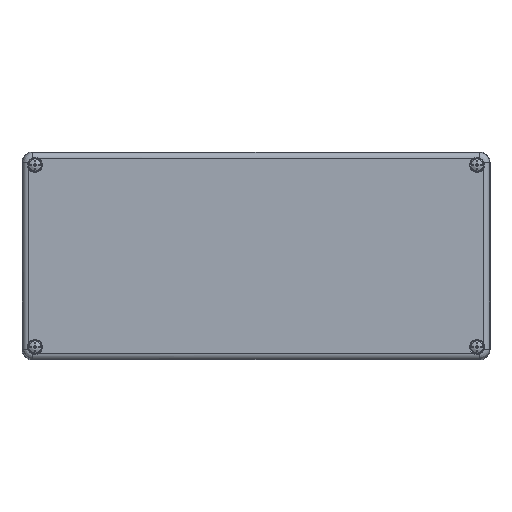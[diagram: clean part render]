
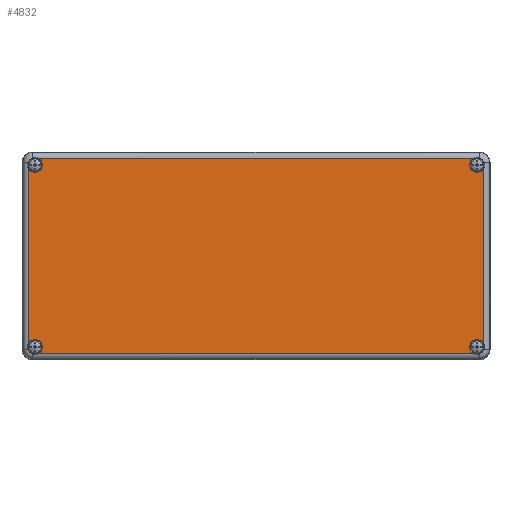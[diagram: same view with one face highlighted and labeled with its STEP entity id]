
A CAD part, top view. The second image highlights one B-rep face of the part: STEP entity #4832.
In plain terms, the highlighted planar face has unit normal (0, 0, 1).
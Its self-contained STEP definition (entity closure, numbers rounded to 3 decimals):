
#597=CIRCLE('',#16826,5.662);
#598=CIRCLE('',#16827,5.662);
#599=CIRCLE('',#16828,5.662);
#600=CIRCLE('',#16829,5.662);
#1096=PLANE('',#16830);
#2602=LINE('',#41661,#3910);
#2615=LINE('',#41684,#3923);
#2640=LINE('',#41728,#3948);
#2641=LINE('',#41734,#3949);
#3910=VECTOR('',#19851,1.);
#3923=VECTOR('',#19884,1.);
#3948=VECTOR('',#19947,1.);
#3949=VECTOR('',#19958,1.);
#4832=ADVANCED_FACE('',(#5925),#1096,.T.);
#5925=FACE_OUTER_BOUND('',#6928,.T.);
#6928=EDGE_LOOP('',(#11156,#11157,#11158,#11159,#11160,#11161,#11162,#11163));
#11156=ORIENTED_EDGE('',*,*,#15122,.T.);
#11157=ORIENTED_EDGE('',*,*,#15083,.T.);
#11158=ORIENTED_EDGE('',*,*,#15123,.F.);
#11159=ORIENTED_EDGE('',*,*,#15096,.F.);
#11160=ORIENTED_EDGE('',*,*,#15124,.T.);
#11161=ORIENTED_EDGE('',*,*,#15121,.F.);
#11162=ORIENTED_EDGE('',*,*,#15125,.F.);
#11163=ORIENTED_EDGE('',*,*,#15126,.T.);
#12671=VERTEX_POINT('',#34529);
#12673=VERTEX_POINT('',#34633);
#12752=VERTEX_POINT('',#36656);
#12756=VERTEX_POINT('',#36782);
#12828=VERTEX_POINT('',#38759);
#12832=VERTEX_POINT('',#38885);
#12907=VERTEX_POINT('',#40850);
#12909=VERTEX_POINT('',#40954);
#15083=EDGE_CURVE('',#12832,#12909,#2602,.T.);
#15096=EDGE_CURVE('',#12752,#12907,#2615,.T.);
#15121=EDGE_CURVE('',#12673,#12756,#2640,.T.);
#15122=EDGE_CURVE('',#12828,#12832,#597,.T.);
#15123=EDGE_CURVE('',#12907,#12909,#598,.T.);
#15124=EDGE_CURVE('',#12752,#12756,#599,.T.);
#15125=EDGE_CURVE('',#12671,#12673,#600,.T.);
#15126=EDGE_CURVE('',#12671,#12828,#2641,.T.);
#16826=AXIS2_PLACEMENT_3D('',#41730,#19950,#19951);
#16827=AXIS2_PLACEMENT_3D('',#41731,#19952,#19953);
#16828=AXIS2_PLACEMENT_3D('',#41732,#19954,#19955);
#16829=AXIS2_PLACEMENT_3D('',#41733,#19956,#19957);
#16830=AXIS2_PLACEMENT_3D('',#41735,#19959,#19960);
#19851=DIRECTION('',(0.,-1.,0.));
#19884=DIRECTION('',(-1.,0.,0.));
#19947=DIRECTION('',(0.,-1.,0.));
#19950=DIRECTION('',(0.,0.,-1.));
#19951=DIRECTION('',(-1.,0.,0.));
#19952=DIRECTION('',(0.,0.,1.));
#19953=DIRECTION('',(-1.,0.,0.));
#19954=DIRECTION('',(0.,0.,-1.));
#19955=DIRECTION('',(1.,0.,0.));
#19956=DIRECTION('',(0.,0.,1.));
#19957=DIRECTION('',(1.,0.,0.));
#19958=DIRECTION('',(-1.,0.,0.));
#19959=DIRECTION('',(0.,0.,1.));
#19960=DIRECTION('',(-1.,0.,0.));
#34529=CARTESIAN_POINT('',(167.524,75.093,20.));
#34633=CARTESIAN_POINT('',(175.093,67.524,20.));
#36656=CARTESIAN_POINT('',(167.524,-75.093,20.));
#36782=CARTESIAN_POINT('',(175.093,-67.524,20.));
#38759=CARTESIAN_POINT('',(-167.524,75.093,20.));
#38885=CARTESIAN_POINT('',(-175.093,67.524,20.));
#40850=CARTESIAN_POINT('',(-167.524,-75.093,20.));
#40954=CARTESIAN_POINT('',(-175.093,-67.524,20.));
#41661=CARTESIAN_POINT('',(-175.093,67.524,20.));
#41684=CARTESIAN_POINT('',(167.524,-75.093,20.));
#41728=CARTESIAN_POINT('',(175.093,67.524,20.));
#41730=CARTESIAN_POINT('',(-170.,70.,20.));
#41731=CARTESIAN_POINT('',(-170.,-70.,20.));
#41732=CARTESIAN_POINT('',(170.,-70.,20.));
#41733=CARTESIAN_POINT('',(170.,70.,20.));
#41734=CARTESIAN_POINT('',(167.524,75.093,20.));
#41735=CARTESIAN_POINT('',(-175.094,-75.094,20.));
